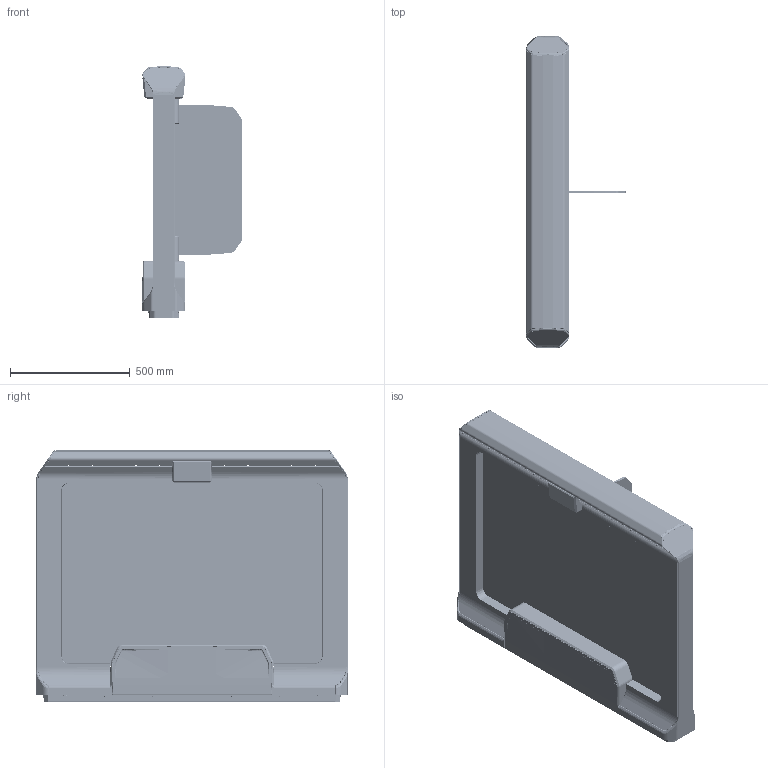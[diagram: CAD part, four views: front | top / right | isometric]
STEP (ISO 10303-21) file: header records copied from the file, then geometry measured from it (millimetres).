
FILE_DESCRIPTION(/* description */ ('Unknown'),/* implementation_level */ '2;1');
FILE_NAME(/* name */ '55870003_02',/* time_stamp */ '2023-12-04T07:38:37+01:00',/* author */ ('Unknown'),/* organization */ ('Unknown'),/* preprocessor_version */ 'ST-DEVELOPER v18.104',/* originating_system */ 'Solid Edge',/* authorisation */ 'Unknown');
FILE_SCHEMA (('AUTOMOTIVE_DESIGN {1 0 10303 214 3 1 1}'));
Products named in the file (39): 55870003; FMWI_AL_oa_0; 10430687_oa_1; 10450377_oa_2; 20590422_oa_3; 20590422b; 20590422c; 31470012; 10435870_oa_4; 20340354; 20695052; 31475011_10435867; 10430682_oa_5; 10450300_oa_6; 10430690_oa_7; 20590391; 20180477; 10430620_oa_8; 20590309; 10430621_oa_9; 20590310; 20595839; 10430621_oa_10; 10430691_oa_11; 20590392; 20160205; 10430576_oa_12; 20590237; 10430885_oa_13; 20650038; 20430722; 10430886_oa_14; 35050004; 20040126; 35765045; 20430724; 20430725; 10430576_oa_15; 20160200
Assembly tree (64 placements, depth 6):
  55870003
    FMWI_AL_oa_0
      10430687_oa_1
        10450377_oa_2
          20590422_oa_3
            20590422b
            20590422c
          31470012  x4
        10435870_oa_4
          20340354
          20695052  x6
          31475011_10435867
        10430682_oa_5
          20340354
          20695052  x6
          31475011_10435867
      10450300_oa_6
        10430690_oa_7
          20590391
        20180477
        10430620_oa_8
          20590309
        10430621_oa_9
          20590310
        20595839
        10430621_oa_10
          20590310
        10430691_oa_11
          20590392
      20160205
      10430576_oa_12
        20590237
      10430885_oa_13
        20650038  x2
        20430722
        10430886_oa_14
          35050004  x4
          20040126
          35765045  x2
          20430722
          20430724
        20430725
        35765045  x2
      10430576_oa_15
        20590237
      20160200
Bounding box: 415 x 1300.04 x 1050 mm (x, y, z)
Volume: 28762521.3 mm3; surface area: 8345126.7 mm2
Topology: 53 solids, 53 shells, 14619 faces, 34632 edges, 19296 vertices
Faces by surface type: cylinder 4658, bspline 4310, plane 2874, sphere 1272, cone 860, torus 645
Full cylindrical faces by diameter (mm): 1.9 x8, 2.5 x16, 3.2 x24, 3.242 x6, 4.917 x2, 5 x12, 5.3 x16, 5.5 x4, 6 x8, 6.2 x12, 6.647 x8, 7.2 x8, 8 x12, 9.3 x4, 10 x8, 10.15 x12, 11 x1, 12 x8, 13 x12, 14 x11, 15 x12, 16 x4, 17 x16, 18 x8, 20 x1, 21.5 x4, 23 x1, 25 x4, 26 x1, 30 x1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
Entity records: 486528 total; most frequent: CARTESIAN_POINT 133071, ORIENTED_EDGE 56966, DIRECTION 54583, EDGE_CURVE 28483, AXIS2_PLACEMENT_3D 22337, VERTEX_POINT 16475, FACE_BOUND 14028, EDGE_LOOP 14022
